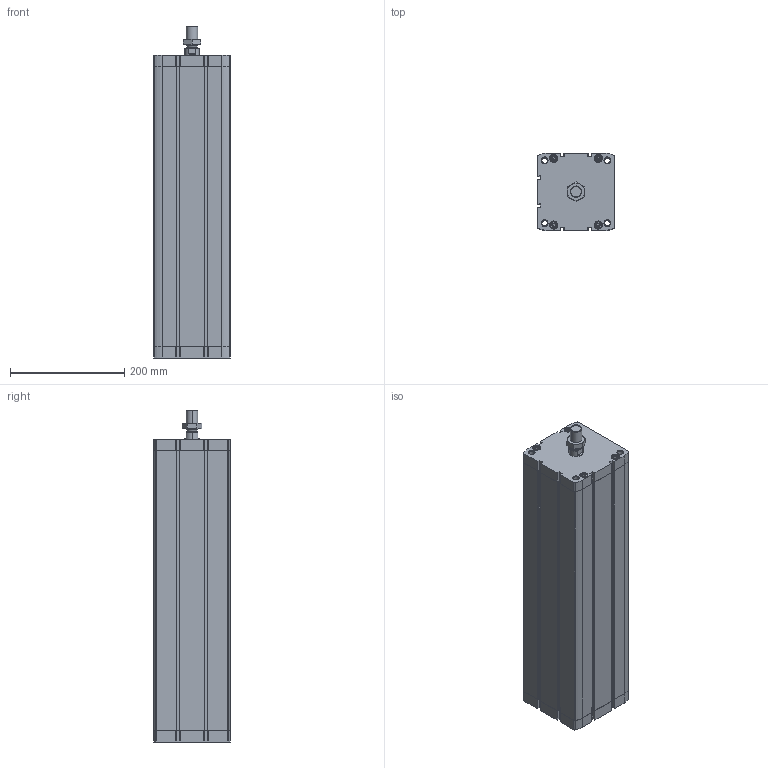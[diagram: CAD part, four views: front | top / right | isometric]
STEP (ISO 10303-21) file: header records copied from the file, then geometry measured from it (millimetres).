
FILE_DESCRIPTION (( 'STEP AP203' ), '1' );
FILE_NAME ('CCN125-450M.STEP', '2020-06-05T19:26:25', ( '' ), ( '' ), 'SwSTEP 2.0', 'SolidWorks 2019', '' );
FILE_SCHEMA (( 'CONFIG_CONTROL_DESIGN' ));
Length unit declared in the file: millimetre
Products named in the file (1): CCN125-450M
Bounding box: 134.6 x 134.6 x 582 mm (x, y, z)
Volume: 3923304.5 mm3; surface area: 722908.9 mm2
Topology: 3 solids, 3 shells, 555 faces, 1412 edges, 886 vertices
Faces by surface type: plane 275, cylinder 196, cone 80, torus 4
Entity records: 18163 total; most frequent: CARTESIAN_POINT 4452, DIRECTION 2966, ORIENTED_EDGE 2792, EDGE_CURVE 1396, AXIS2_PLACEMENT_3D 1092, VERTEX_POINT 886, VECTOR 782, LINE 782
